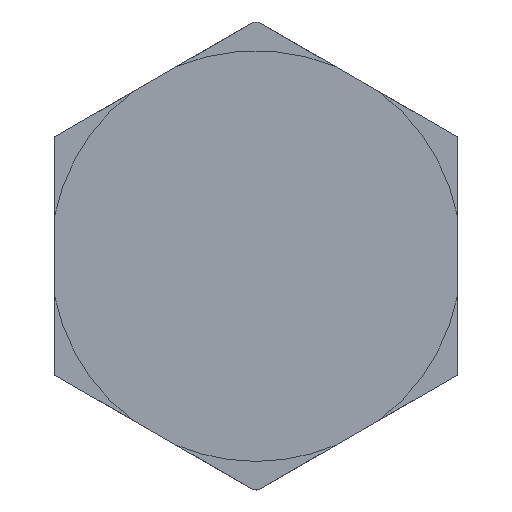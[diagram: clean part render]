
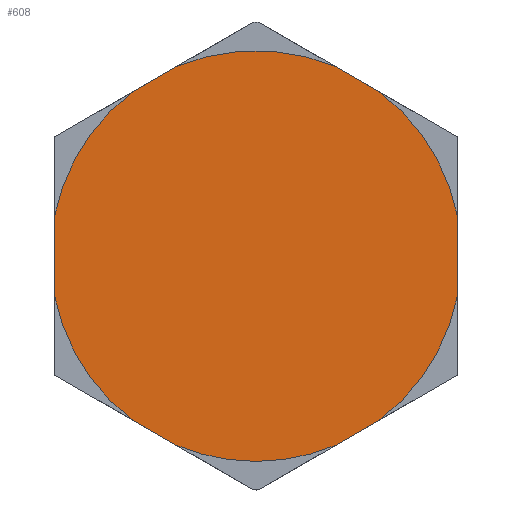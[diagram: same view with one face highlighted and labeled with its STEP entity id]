
A CAD part, left-side view. The second image highlights one B-rep face of the part: STEP entity #608.
In plain terms, the highlighted planar face has unit normal (-1, 0, 0).
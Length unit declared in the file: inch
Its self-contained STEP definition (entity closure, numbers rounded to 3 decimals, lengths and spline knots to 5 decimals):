
#11 = VECTOR ( 'NONE', #994, 39.37008 ) ;
#13 = LINE ( 'NONE', #986, #26 ) ;
#18 = CIRCLE ( 'NONE', #408, 0.7635 ) ;
#20 = LINE ( 'NONE', #973, #11 ) ;
#25 = VECTOR ( 'NONE', #985, 39.37008 ) ;
#26 = VECTOR ( 'NONE', #1009, 39.37008 ) ;
#30 = VERTEX_POINT ( 'NONE', #108 ) ;
#44 = FACE_OUTER_BOUND ( 'NONE', #1103, .T. ) ;
#108 = CARTESIAN_POINT ( 'NONE',  ( -4.5, 0., -0.7635 ) ) ;
#124 = LINE ( 'NONE', #1022, #145 ) ;
#131 = LINE ( 'NONE', #977, #25 ) ;
#137 = VECTOR ( 'NONE', #1024, 39.37008 ) ;
#138 = CIRCLE ( 'NONE', #464, 0.7635 ) ;
#140 = LINE ( 'NONE', #1017, #137 ) ;
#145 = VECTOR ( 'NONE', #966, 39.37008 ) ;
#203 = PLANE ( 'NONE',  #376 ) ;
#209 = DIRECTION ( 'NONE',  ( 0., 0., 1. ) ) ;
#220 = DIRECTION ( 'NONE',  ( -1., 0., 0. ) ) ;
#225 = CARTESIAN_POINT ( 'NONE',  ( -4.5, 0.7635, 0. ) ) ;
#328 = EDGE_CURVE ( 'NONE', #1124, #1180, #830, .T. ) ;
#330 = EDGE_CURVE ( 'NONE', #1114, #1135, #827, .T. ) ;
#376 = AXIS2_PLACEMENT_3D ( 'NONE', #225, #220, #209 ) ;
#382 = EDGE_CURVE ( 'NONE', #1121, #1115, #820, .T. ) ;
#408 = AXIS2_PLACEMENT_3D ( 'NONE', #1042, #1046, #1045 ) ;
#409 = EDGE_CURVE ( 'NONE', #30, #1127, #852, .T. ) ;
#426 = EDGE_CURVE ( 'NONE', #1138, #30, #813, .T. ) ;
#444 = EDGE_CURVE ( 'NONE', #1110, #1114, #788, .T. ) ;
#448 = EDGE_CURVE ( 'NONE', #1121, #1180, #140, .T. ) ;
#449 = EDGE_CURVE ( 'NONE', #1148, #1149, #138, .T. ) ;
#451 = EDGE_CURVE ( 'NONE', #1124, #1135, #124, .T. ) ;
#459 = EDGE_CURVE ( 'NONE', #1127, #1148, #131, .T. ) ;
#461 = EDGE_CURVE ( 'NONE', #1138, #1115, #13, .T. ) ;
#464 = AXIS2_PLACEMENT_3D ( 'NONE', #1019, #1018, #1021 ) ;
#472 = AXIS2_PLACEMENT_3D ( 'NONE', #914, #912, #906 ) ;
#483 = AXIS2_PLACEMENT_3D ( 'NONE', #939, #948, #944 ) ;
#484 = AXIS2_PLACEMENT_3D ( 'NONE', #951, #937, #933 ) ;
#485 = AXIS2_PLACEMENT_3D ( 'NONE', #889, #888, #884 ) ;
#486 = AXIS2_PLACEMENT_3D ( 'NONE', #947, #893, #892 ) ;
#502 = EDGE_CURVE ( 'NONE', #1155, #1110, #18, .T. ) ;
#503 = EDGE_CURVE ( 'NONE', #1149, #1155, #20, .T. ) ;
#608 = ADVANCED_FACE ( 'NONE', ( #44 ), #203, .T. ) ;
#652 = ORIENTED_EDGE ( 'NONE', *, *, #502, .F. ) ;
#653 = ORIENTED_EDGE ( 'NONE', *, *, #330, .F. ) ;
#664 = ORIENTED_EDGE ( 'NONE', *, *, #503, .F. ) ;
#670 = ORIENTED_EDGE ( 'NONE', *, *, #409, .F. ) ;
#682 = ORIENTED_EDGE ( 'NONE', *, *, #459, .F. ) ;
#683 = ORIENTED_EDGE ( 'NONE', *, *, #449, .F. ) ;
#685 = ORIENTED_EDGE ( 'NONE', *, *, #451, .T. ) ;
#686 = ORIENTED_EDGE ( 'NONE', *, *, #328, .F. ) ;
#693 = ORIENTED_EDGE ( 'NONE', *, *, #444, .F. ) ;
#695 = ORIENTED_EDGE ( 'NONE', *, *, #461, .T. ) ;
#699 = ORIENTED_EDGE ( 'NONE', *, *, #426, .F. ) ;
#704 = ORIENTED_EDGE ( 'NONE', *, *, #382, .F. ) ;
#720 = CARTESIAN_POINT ( 'NONE',  ( -4.5, 0.45973, 0.60958 ) ) ;
#727 = CARTESIAN_POINT ( 'NONE',  ( -4.5, 0.29805, 0.70292 ) ) ;
#728 = CARTESIAN_POINT ( 'NONE',  ( -4.5, -0.45973, -0.60958 ) ) ;
#734 = CARTESIAN_POINT ( 'NONE',  ( -4.5, -0.74904, -0.14791 ) ) ;
#736 = CARTESIAN_POINT ( 'NONE',  ( -4.5, -0.45973, 0.60958 ) ) ;
#738 = CARTESIAN_POINT ( 'NONE',  ( -4.5, 0.29805, -0.70292 ) ) ;
#745 = CARTESIAN_POINT ( 'NONE',  ( -4.5, -0.29805, 0.70292 ) ) ;
#748 = CARTESIAN_POINT ( 'NONE',  ( -4.5, -0.29805, -0.70292 ) ) ;
#757 = CARTESIAN_POINT ( 'NONE',  ( -4.5, 0.45973, -0.60958 ) ) ;
#758 = CARTESIAN_POINT ( 'NONE',  ( -4.5, 0.74904, -0.14791 ) ) ;
#761 = CARTESIAN_POINT ( 'NONE',  ( -4.5, 0.74904, 0.14791 ) ) ;
#767 = CARTESIAN_POINT ( 'NONE',  ( -4.5, -0.74904, 0.14791 ) ) ;
#788 = LINE ( 'NONE', #1001, #799 ) ;
#799 = VECTOR ( 'NONE', #993, 39.37008 ) ;
#813 = CIRCLE ( 'NONE', #472, 0.7635 ) ;
#820 = CIRCLE ( 'NONE', #484, 0.7635 ) ;
#827 = CIRCLE ( 'NONE', #485, 0.7635 ) ;
#830 = CIRCLE ( 'NONE', #486, 0.7635 ) ;
#852 = CIRCLE ( 'NONE', #483, 0.7635 ) ;
#884 = DIRECTION ( 'NONE',  ( 0., 0., -1. ) ) ;
#888 = DIRECTION ( 'NONE',  ( 1., 0., 0. ) ) ;
#889 = CARTESIAN_POINT ( 'NONE',  ( -4.5, 0., 0. ) ) ;
#892 = DIRECTION ( 'NONE',  ( 0., 0., -1. ) ) ;
#893 = DIRECTION ( 'NONE',  ( 1., 0., 0. ) ) ;
#906 = DIRECTION ( 'NONE',  ( 0., 0., -1. ) ) ;
#912 = DIRECTION ( 'NONE',  ( 1., 0., 0. ) ) ;
#914 = CARTESIAN_POINT ( 'NONE',  ( -4.5, 0., 0. ) ) ;
#933 = DIRECTION ( 'NONE',  ( 0., 0., -1. ) ) ;
#937 = DIRECTION ( 'NONE',  ( 1., 0., 0. ) ) ;
#939 = CARTESIAN_POINT ( 'NONE',  ( -4.5, 0., 0. ) ) ;
#944 = DIRECTION ( 'NONE',  ( 0., 0., -1. ) ) ;
#947 = CARTESIAN_POINT ( 'NONE',  ( -4.5, 0., 0. ) ) ;
#948 = DIRECTION ( 'NONE',  ( 1., 0., 0. ) ) ;
#951 = CARTESIAN_POINT ( 'NONE',  ( -4.5, 0., 0. ) ) ;
#966 = DIRECTION ( 'NONE',  ( 0., 0.866, 0.5 ) ) ;
#973 = CARTESIAN_POINT ( 'NONE',  ( -4.5, 0.74904, 0. ) ) ;
#977 = CARTESIAN_POINT ( 'NONE',  ( -4.5, 0.95151, -0.32564 ) ) ;
#985 = DIRECTION ( 'NONE',  ( 0., 0.866, 0.5 ) ) ;
#986 = CARTESIAN_POINT ( 'NONE',  ( -4.5, 0.19374, -0.98686 ) ) ;
#993 = DIRECTION ( 'NONE',  ( 0., -0.866, 0.5 ) ) ;
#994 = DIRECTION ( 'NONE',  ( 0., 0., 1. ) ) ;
#1001 = CARTESIAN_POINT ( 'NONE',  ( -4.5, 0.95151, 0.32564 ) ) ;
#1009 = DIRECTION ( 'NONE',  ( 0., -0.866, 0.5 ) ) ;
#1017 = CARTESIAN_POINT ( 'NONE',  ( -4.5, -0.74904, 0. ) ) ;
#1018 = DIRECTION ( 'NONE',  ( 1., 0., 0. ) ) ;
#1019 = CARTESIAN_POINT ( 'NONE',  ( -4.5, 0., 0. ) ) ;
#1021 = DIRECTION ( 'NONE',  ( 0., 0., -1. ) ) ;
#1022 = CARTESIAN_POINT ( 'NONE',  ( -4.5, 0.19374, 0.98686 ) ) ;
#1024 = DIRECTION ( 'NONE',  ( 0., 0., 1. ) ) ;
#1042 = CARTESIAN_POINT ( 'NONE',  ( -4.5, 0., 0. ) ) ;
#1045 = DIRECTION ( 'NONE',  ( 0., 0., -1. ) ) ;
#1046 = DIRECTION ( 'NONE',  ( 1., 0., 0. ) ) ;
#1098 = ORIENTED_EDGE ( 'NONE', *, *, #448, .T. ) ;
#1103 = EDGE_LOOP ( 'NONE', ( #686, #685, #653, #693, #652, #664, #683, #682, #670, #699, #695, #704, #1098 ) ) ;
#1110 = VERTEX_POINT ( 'NONE', #720 ) ;
#1114 = VERTEX_POINT ( 'NONE', #727 ) ;
#1115 = VERTEX_POINT ( 'NONE', #728 ) ;
#1121 = VERTEX_POINT ( 'NONE', #734 ) ;
#1124 = VERTEX_POINT ( 'NONE', #736 ) ;
#1127 = VERTEX_POINT ( 'NONE', #738 ) ;
#1135 = VERTEX_POINT ( 'NONE', #745 ) ;
#1138 = VERTEX_POINT ( 'NONE', #748 ) ;
#1148 = VERTEX_POINT ( 'NONE', #757 ) ;
#1149 = VERTEX_POINT ( 'NONE', #758 ) ;
#1155 = VERTEX_POINT ( 'NONE', #761 ) ;
#1180 = VERTEX_POINT ( 'NONE', #767 ) ;
